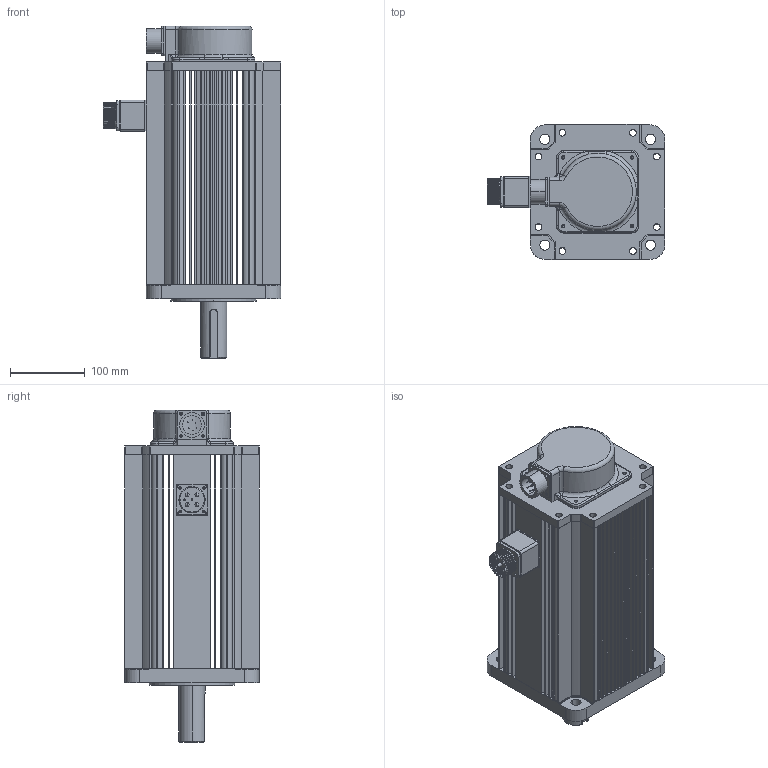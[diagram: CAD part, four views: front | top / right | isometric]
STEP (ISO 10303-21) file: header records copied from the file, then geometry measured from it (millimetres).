
FILE_DESCRIPTION (( 'STEP AP203' ), '1' );
FILE_NAME ('MS6H-180CN15EZ2-47P5.STEP', '2023-12-26T03:35:17', ( '' ), ( '' ), 'SwSTEP 2.0', 'SolidWorks 2022', '' );
FILE_SCHEMA (( 'CONFIG_CONTROL_DESIGN' ));
Length unit declared in the file: millimetre
Products named in the file (1): MS6H-180CN15EZ2-47P5
Bounding box: 237.9 x 180 x 444 mm (x, y, z)
Surface area: 529332.3 mm2 (no closed solid volume)
Topology: 0 solids, 34 shells, 751 faces, 2243 edges, 1511 vertices
Faces by surface type: cylinder 314, plane 305, torus 76, bspline 29, sphere 14, cone 13
Entity records: 30886 total; most frequent: CARTESIAN_POINT 11108, DIRECTION 4301, ORIENTED_EDGE 3616, EDGE_CURVE 2215, AXIS2_PLACEMENT_3D 1575, VERTEX_POINT 1499, VECTOR 1151, LINE 1151
